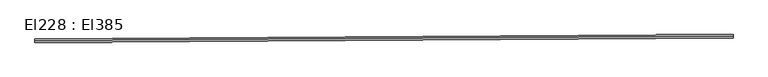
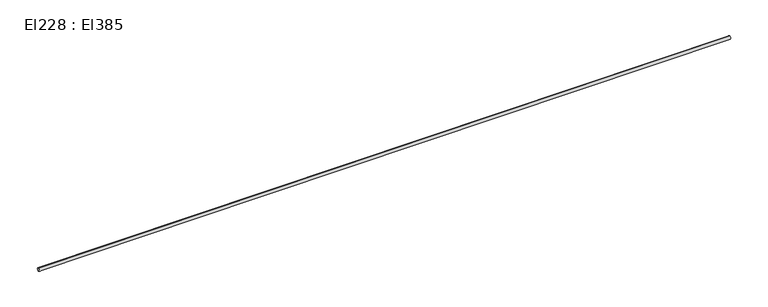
"""IFC4 building model written with IfcOpenShell, lengths in millimetres: cable carrier segment geometry, El228 : El385."""

from ifc_helpers import new_model, si_unit, point, frame, frame_2d, origin, place, context, project, spatial, circle_curve, trimmed, segment, composite_curve, outline, extrude, source, transform, mapped, element, save


def el228_el385_ea66cd84(model_context):
    return source(origin(), model_context, "Body", "SweptSolid", [
        extrude(outline(composite_curve([segment(trimmed(circle_curve(frame_2d((0.0, -9.5)), 9.5), [point((0.0, -19.0))], [point((0.0, 0.0))], False, "CARTESIAN"), True, "CONTINUOUS"), segment(trimmed(circle_curve(frame_2d((0.0, -9.5)), 9.5), [point((0.0, 0.0))], [point((0.0, -19.0))], False, "CARTESIAN"), True, "CONTINUOUS")], self_intersect=False)), frame((9843.7746511, 12785.7147745, 1509.5), z_axis=(0.9999795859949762, 0.006389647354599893, 0.0), x_axis=(-0.006389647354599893, 0.9999795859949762, 0.0)), (0.0, 0.0, 1.0), 4193.48),
    ])


if __name__ == "__main__":
    model = new_model("IFC4")
    model_context = context("Model", 3, world=origin())
    ifc_project = project(units=[si_unit("LENGTHUNIT", "METRE", prefix="MILLI")], contexts=[model_context])
    site = spatial("IfcSite", under=ifc_project)
    building = spatial("IfcBuilding", under=site)
    placement = place(None, origin())
    el228_el385_shape = el228_el385_ea66cd84(model_context)
    element("IfcCableCarrierSegment", 1, ObjectType="El228 : El385", at=placement, inside=building, context=model_context, shape_type="MappedRepresentation", body=[
        mapped(el228_el385_shape, transform((0.0, 0.0, 0.0), x_axis=(1.0, 0.0, 0.0), y_axis=(0.0, 1.0, 0.0), z_axis=(0.0, 0.0, 1.0))),
    ])
    save(model, "model.ifc")
